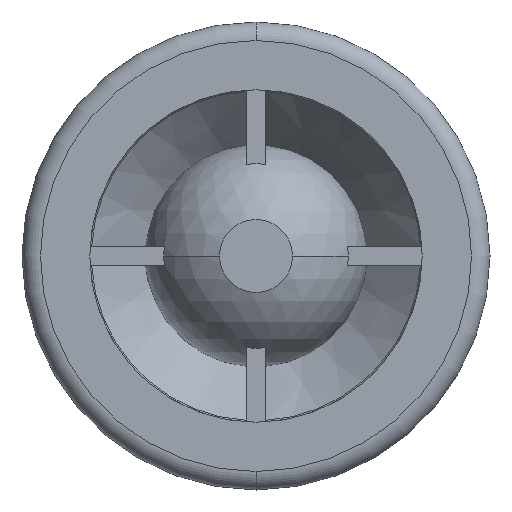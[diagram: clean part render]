
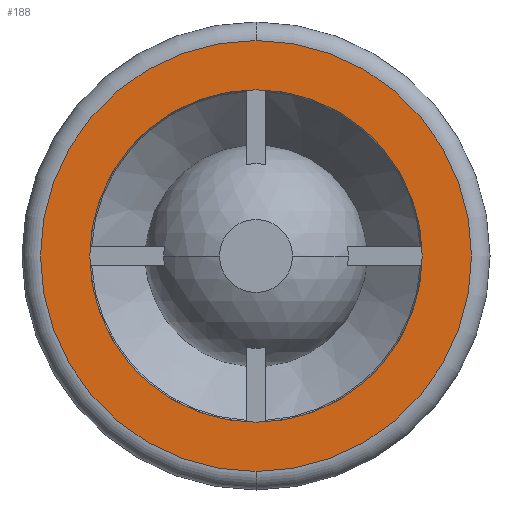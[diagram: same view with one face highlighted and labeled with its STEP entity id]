
A CAD part, front view. The second image highlights one B-rep face of the part: STEP entity #188.
In plain terms, the highlighted planar face has unit normal (0, -1, 0).
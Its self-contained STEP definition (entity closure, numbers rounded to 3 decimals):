
#52 = EDGE_CURVE ( 'NONE', #1850, #1870, #638, .T. ) ;
#53 = ORIENTED_EDGE ( 'NONE', *, *, #1869, .T. ) ;
#54 = EDGE_LOOP ( 'NONE', ( #55, #56 ) ) ;
#55 = ORIENTED_EDGE ( 'NONE', *, *, #1589, .F. ) ;
#56 = ORIENTED_EDGE ( 'NONE', *, *, #1772, .F. ) ;
#188 = ADVANCED_FACE ( 'NONE', ( #686, #685 ), #666, .F. ) ;
#189 = EDGE_LOOP ( 'NONE', ( #190, #53 ) ) ;
#190 = ORIENTED_EDGE ( 'NONE', *, *, #52, .T. ) ;
#634 = DIRECTION ( 'NONE',  ( 0., 0., 1. ) ) ;
#635 = DIRECTION ( 'NONE',  ( 0., -1., 0. ) ) ;
#636 = CARTESIAN_POINT ( 'NONE',  ( 0., 0., 0. ) ) ;
#637 = AXIS2_PLACEMENT_3D ( 'NONE', #636, #635, #634 ) ;
#638 = CIRCLE ( 'NONE', #637, 17.5 ) ;
#661 = DIRECTION ( 'NONE',  ( 0., 0., 1. ) ) ;
#662 = DIRECTION ( 'NONE',  ( 0., 1., 0. ) ) ;
#663 = CARTESIAN_POINT ( 'NONE',  ( -13.5, 0., 0. ) ) ;
#665 = AXIS2_PLACEMENT_3D ( 'NONE', #663, #662, #661 ) ;
#666 = PLANE ( 'NONE',  #665 ) ;
#685 = FACE_BOUND ( 'NONE', #54, .T. ) ;
#686 = FACE_OUTER_BOUND ( 'NONE', #189, .T. ) ;
#1589 = EDGE_CURVE ( 'NONE', #1773, #1770, #1984, .T. ) ;
#1770 = VERTEX_POINT ( 'NONE', #2290 ) ;
#1772 = EDGE_CURVE ( 'NONE', #1770, #1773, #2289, .T. ) ;
#1773 = VERTEX_POINT ( 'NONE', #2284 ) ;
#1850 = VERTEX_POINT ( 'NONE', #2382 ) ;
#1869 = EDGE_CURVE ( 'NONE', #1870, #1850, #2524, .T. ) ;
#1870 = VERTEX_POINT ( 'NONE', #2516 ) ;
#1883 = DIRECTION ( 'NONE',  ( 0., 0., -1. ) ) ;
#1884 = DIRECTION ( 'NONE',  ( 0., -1., 0. ) ) ;
#1885 = CARTESIAN_POINT ( 'NONE',  ( 0., 0., 0. ) ) ;
#1886 = AXIS2_PLACEMENT_3D ( 'NONE', #1885, #1884, #1883 ) ;
#1984 = CIRCLE ( 'NONE', #1886, 13.5 ) ;
#2284 = CARTESIAN_POINT ( 'NONE',  ( 0., 0., -13.5 ) ) ;
#2285 = DIRECTION ( 'NONE',  ( 0., 0., -1. ) ) ;
#2286 = DIRECTION ( 'NONE',  ( 0., -1., 0. ) ) ;
#2287 = CARTESIAN_POINT ( 'NONE',  ( 0., 0., 0. ) ) ;
#2288 = AXIS2_PLACEMENT_3D ( 'NONE', #2287, #2286, #2285 ) ;
#2289 = CIRCLE ( 'NONE', #2288, 13.5 ) ;
#2290 = CARTESIAN_POINT ( 'NONE',  ( 0., 0., 13.5 ) ) ;
#2382 = CARTESIAN_POINT ( 'NONE',  ( 0., 0., 17.5 ) ) ;
#2516 = CARTESIAN_POINT ( 'NONE',  ( 0., 0., -17.5 ) ) ;
#2517 = DIRECTION ( 'NONE',  ( 0., 0., 1. ) ) ;
#2518 = DIRECTION ( 'NONE',  ( 0., -1., 0. ) ) ;
#2519 = CARTESIAN_POINT ( 'NONE',  ( 0., 0., 0. ) ) ;
#2520 = AXIS2_PLACEMENT_3D ( 'NONE', #2519, #2518, #2517 ) ;
#2524 = CIRCLE ( 'NONE', #2520, 17.5 ) ;
